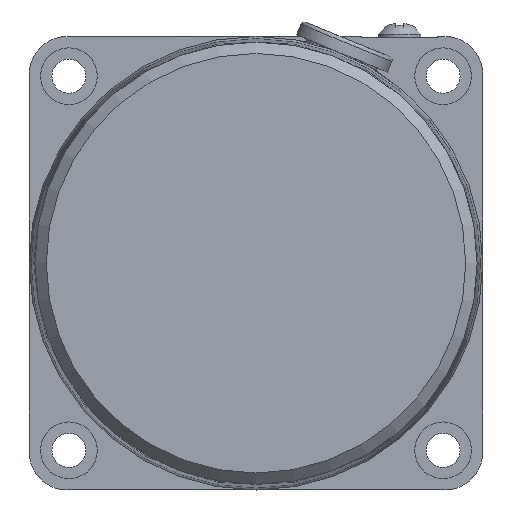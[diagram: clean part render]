
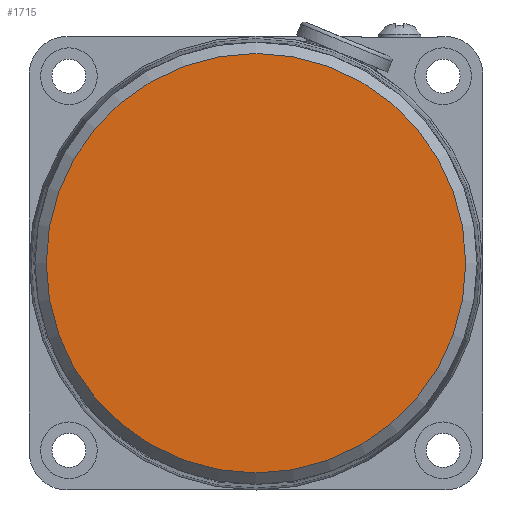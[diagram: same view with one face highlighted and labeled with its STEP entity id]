
A CAD part, left-side view. The second image highlights one B-rep face of the part: STEP entity #1715.
In plain terms, the highlighted planar face has unit normal (-1, 0, 0).
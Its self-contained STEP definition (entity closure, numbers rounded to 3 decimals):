
#101=CIRCLE('',#1838,27.75);
#206=FACE_OUTER_BOUND('',#311,.T.);
#311=EDGE_LOOP('',(#1164));
#722=VERTEX_POINT('',#2623);
#898=EDGE_CURVE('',#722,#722,#101,.T.);
#1164=ORIENTED_EDGE('',*,*,#898,.F.);
#1545=PLANE('',#1839);
#1715=ADVANCED_FACE('',(#206),#1545,.T.);
#1838=AXIS2_PLACEMENT_3D('',#2624,#2080,#2081);
#1839=AXIS2_PLACEMENT_3D('',#2625,#2082,#2083);
#2080=DIRECTION('center_axis',(1.,0.,0.));
#2081=DIRECTION('ref_axis',(0.,1.,0.));
#2082=DIRECTION('center_axis',(-1.,0.,0.));
#2083=DIRECTION('ref_axis',(0.,0.,1.));
#2623=CARTESIAN_POINT('',(0.,27.75,0.));
#2624=CARTESIAN_POINT('Origin',(0.,0.,0.));
#2625=CARTESIAN_POINT('Origin',(0.,13.875,0.));
